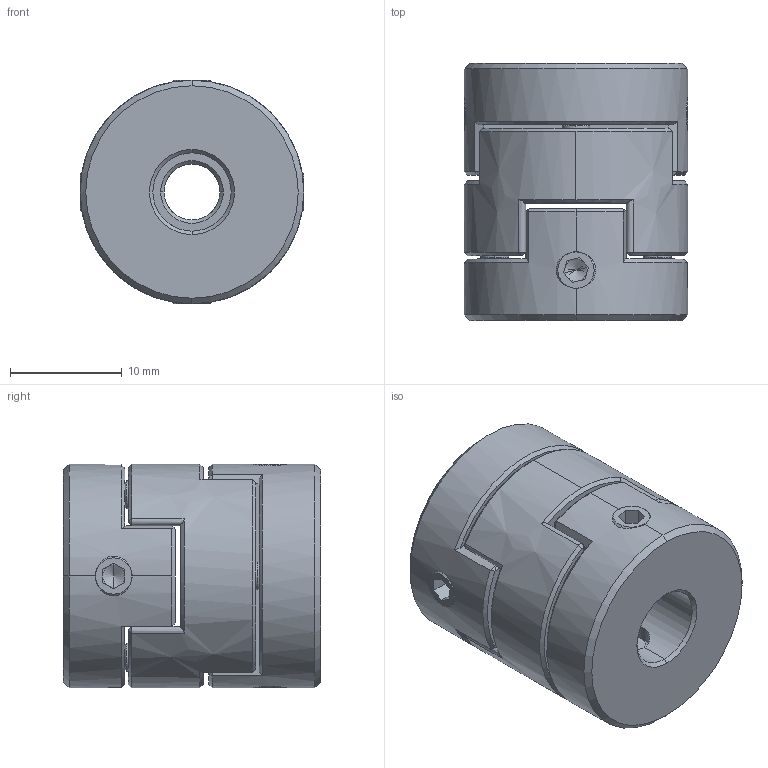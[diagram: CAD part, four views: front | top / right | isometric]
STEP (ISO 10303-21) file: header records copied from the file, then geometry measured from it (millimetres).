
FILE_DESCRIPTION (( 'STEP AP203' ), '1' );
FILE_NAME ('LZ-D-D20L23-5-7.STEP', '2021-10-30T01:43:07', ( '' ), ( '' ), 'SwSTEP 2.0', 'SolidWorks 2018', '' );
FILE_SCHEMA (( 'CONFIG_CONTROL_DESIGN' ));
Length unit declared in the file: millimetre
Products named in the file (1): LZ-D-D20L23-5-7
Bounding box: 20 x 23 x 20 mm (x, y, z)
Volume: 6158.7 mm3; surface area: 4115 mm2
Topology: 3 solids, 3 shells, 230 faces, 586 edges, 364 vertices
Faces by surface type: plane 116, cone 54, cylinder 34, bspline 26
Entity records: 9735 total; most frequent: CARTESIAN_POINT 4453, ORIENTED_EDGE 1156, DIRECTION 978, EDGE_CURVE 578, VERTEX_POINT 364, AXIS2_PLACEMENT_3D 357, LINE 264, VECTOR 264
